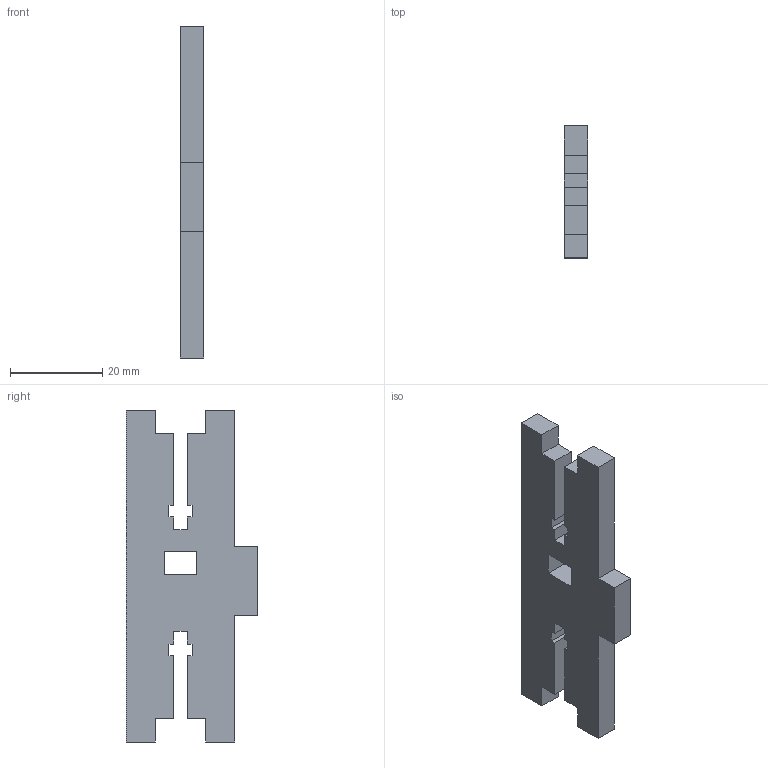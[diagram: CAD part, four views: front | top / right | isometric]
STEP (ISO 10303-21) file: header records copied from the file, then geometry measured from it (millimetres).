
FILE_DESCRIPTION(/* description */ (''),/* implementation_level */ '2;1');
FILE_NAME(/* name */ 'SO0A6D~1',/* time_stamp */ '2019-04-01T21:22:35-03:00',/* author */ (''),/* organization */ (''),/* preprocessor_version */ 'ST-DEVELOPER v16.5',/* originating_system */ '',/* authorisation */ '');
FILE_SCHEMA (('AUTOMOTIVE_DESIGN'));
Length unit declared in the file: millimetre
Products named in the file (1): Document
Bounding box: 5 x 28.58 x 72.02 mm (x, y, z)
Volume: 7492.4 mm3; surface area: 4664.1 mm2
Topology: 1 solids, 1 shells, 46 faces, 132 edges, 88 vertices
Faces by surface type: plane 46
Entity records: 1413 total; most frequent: CARTESIAN_POINT 492, ORIENTED_EDGE 264, EDGE_CURVE 132, B_SPLINE_CURVE_WITH_KNOTS 132, VERTEX_POINT 88, DIRECTION 50, EDGE_LOOP 48, AXIS2_PLACEMENT_3D 48
